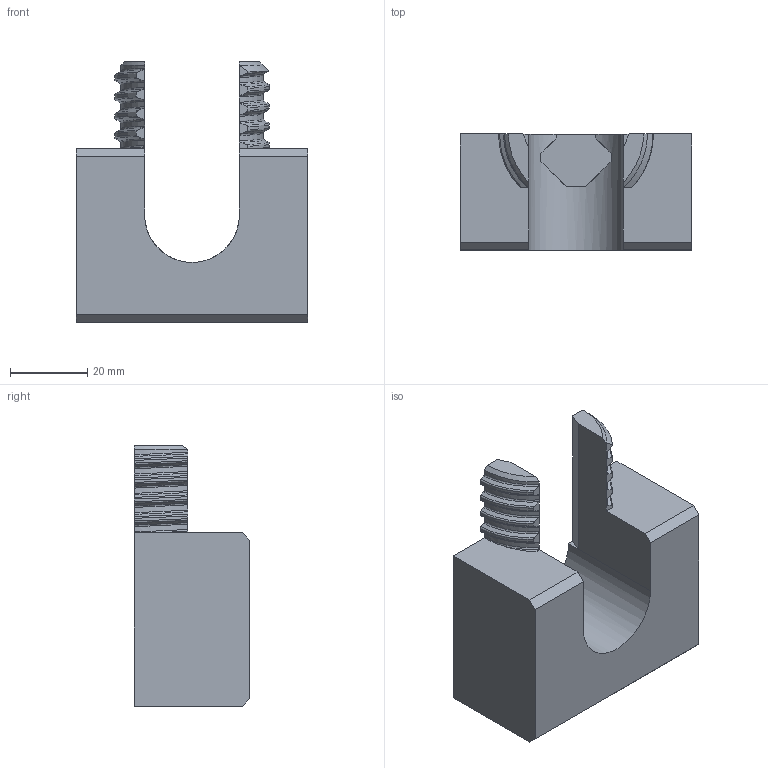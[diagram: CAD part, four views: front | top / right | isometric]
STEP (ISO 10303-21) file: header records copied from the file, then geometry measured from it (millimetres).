
FILE_DESCRIPTION (( 'STEP AP214' ), '1' );
FILE_NAME ('DS_v2B_DrziakLd.STEP', '2026-03-22T08:52:36', ( '' ), ( '' ), 'SwSTEP 2.0', 'SolidWorks 2026', '' );
FILE_SCHEMA (( 'AUTOMOTIVE_DESIGN' ));
Length unit declared in the file: millimetre
Products named in the file (1): DS_v2B_DrziakLd
Bounding box: 60 x 30 x 67.5 mm (x, y, z)
Volume: 56765.6 mm3; surface area: 14473.3 mm2
Topology: 1 solids, 1 shells, 116 faces, 322 edges, 208 vertices
Faces by surface type: bspline 62, plane 42, cylinder 10, cone 2
Entity records: 36851 total; most frequent: CARTESIAN_POINT 34648, ORIENTED_EDGE 644, EDGE_CURVE 322, DIRECTION 235, VERTEX_POINT 208, ADVANCED_FACE 116, FACE_OUTER_BOUND 116, EDGE_LOOP 116
